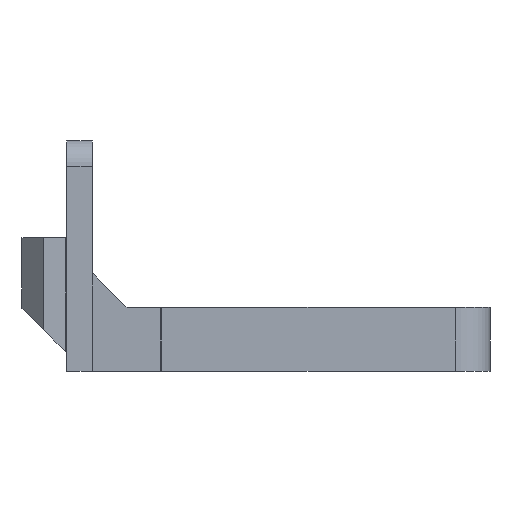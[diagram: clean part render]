
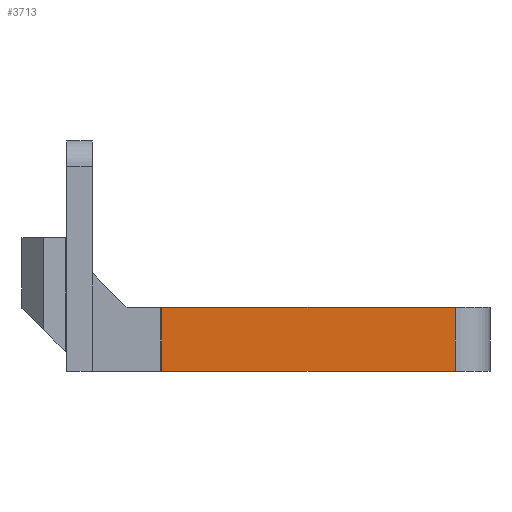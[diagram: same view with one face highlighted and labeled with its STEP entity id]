
A CAD part, front view. The second image highlights one B-rep face of the part: STEP entity #3713.
In plain terms, the highlighted planar face has unit normal (0, -1, 0).
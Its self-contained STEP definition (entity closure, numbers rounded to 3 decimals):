
#141=PLANE('',#4071);
#349=FACE_OUTER_BOUND('',#603,.T.);
#603=EDGE_LOOP('',(#3027,#3028,#3029,#3030));
#738=LINE('',#5563,#1116);
#896=LINE('',#5982,#1274);
#897=LINE('',#5985,#1275);
#898=LINE('',#5988,#1276);
#1116=VECTOR('',#4424,10.);
#1274=VECTOR('',#4898,10.);
#1275=VECTOR('',#4901,10.);
#1276=VECTOR('',#4906,10.);
#1679=VERTEX_POINT('',#5560);
#1680=VERTEX_POINT('',#5562);
#1783=VERTEX_POINT('',#5980);
#1784=VERTEX_POINT('',#5984);
#2007=EDGE_CURVE('',#1679,#1680,#738,.T.);
#2219=EDGE_CURVE('',#1783,#1679,#896,.T.);
#2220=EDGE_CURVE('',#1784,#1680,#897,.T.);
#2222=EDGE_CURVE('',#1783,#1784,#898,.F.);
#3027=ORIENTED_EDGE('',*,*,#2219,.F.);
#3028=ORIENTED_EDGE('',*,*,#2222,.T.);
#3029=ORIENTED_EDGE('',*,*,#2220,.T.);
#3030=ORIENTED_EDGE('',*,*,#2007,.F.);
#3713=ADVANCED_FACE('',(#349),#141,.T.);
#4071=AXIS2_PLACEMENT_3D('',#5987,#4904,#4905);
#4424=DIRECTION('',(-1.,0.,0.));
#4898=DIRECTION('',(0.,0.,-1.));
#4901=DIRECTION('',(0.,0.,-1.));
#4904=DIRECTION('center_axis',(0.,-1.,0.));
#4905=DIRECTION('ref_axis',(1.,0.,0.));
#4906=DIRECTION('',(1.,0.,0.));
#5560=CARTESIAN_POINT('',(141.15,-21.,-114.478));
#5562=CARTESIAN_POINT('',(107.15,-21.,-114.478));
#5563=CARTESIAN_POINT('',(141.15,-21.,-114.478));
#5980=CARTESIAN_POINT('',(141.15,-21.,-107.078));
#5982=CARTESIAN_POINT('',(141.15,-21.,-111.724));
#5984=CARTESIAN_POINT('',(107.15,-21.,-107.078));
#5985=CARTESIAN_POINT('',(107.15,-21.,-111.724));
#5987=CARTESIAN_POINT('Origin',(103.15,-21.,-111.724));
#5988=CARTESIAN_POINT('',(122.15,-21.,-107.078));
